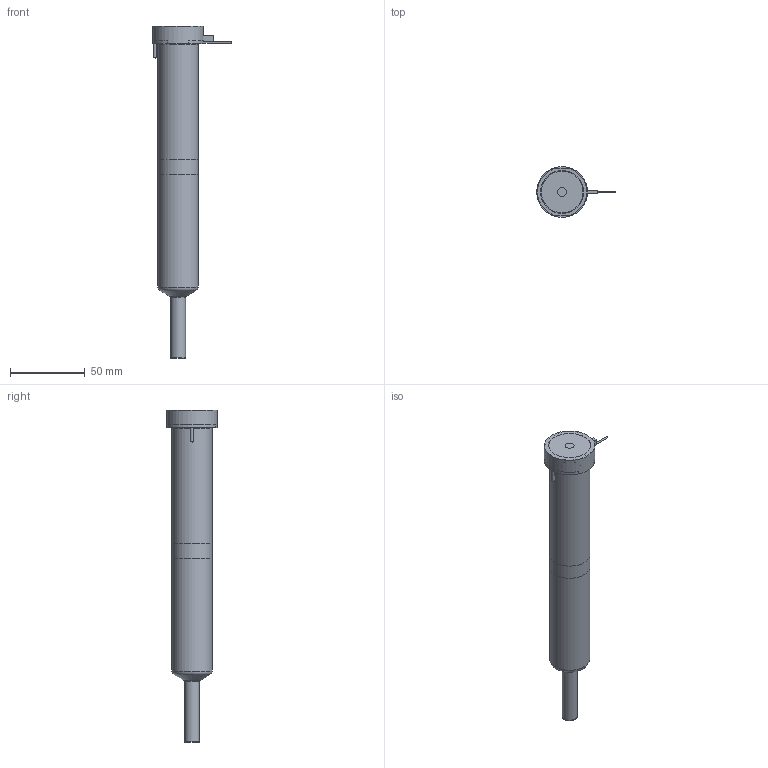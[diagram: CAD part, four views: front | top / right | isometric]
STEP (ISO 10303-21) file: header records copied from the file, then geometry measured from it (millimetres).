
FILE_DESCRIPTION(/* description */ (''),/* implementation_level */ '2;1');
FILE_NAME(/* name */ 'BXTSL-BXISL-BXOSL13175_200C_b',/* time_stamp */ '2008-04-29T14:05:56+12:00',/* author */ (''),/* organization */ (''),/* preprocessor_version */ 'ST-DEVELOPER v9',/* originating_system */ 'UGS - NX 4.0',/* authorisation */ '');
FILE_SCHEMA (('CONFIG_CONTROL_DESIGN'));
Length unit declared in the file: millimetre
Products named in the file (1): BXTSL-BXISL-BXOSL13175_200C_b
Bounding box: 52.65 x 34 x 222.75 mm (x, y, z)
Volume: 193138.8 mm3; surface area: 37749.6 mm2
Topology: 6 solids, 6 shells, 73 faces, 141 edges, 91 vertices
Faces by surface type: plane 34, cylinder 23, cone 8, torus 7, bspline 1
Full cylindrical faces by diameter (mm): 0.9 x1, 1 x3, 2 x2, 6 x1, 9.61 x1, 10.01 x2, 12.6 x1, 22.2 x1, 27 x2, 34 x1
Entity records: 1806 total; most frequent: CARTESIAN_POINT 357, DIRECTION 304, ORIENTED_EDGE 210, AXIS2_PLACEMENT_3D 134, EDGE_LOOP 112, EDGE_CURVE 105, VERTEX_POINT 84, ADVANCED_FACE 73
